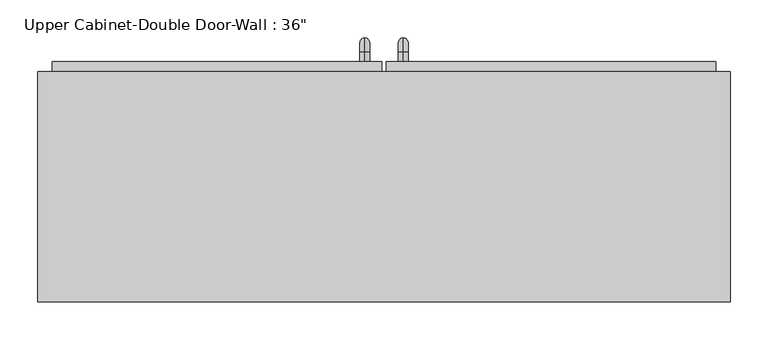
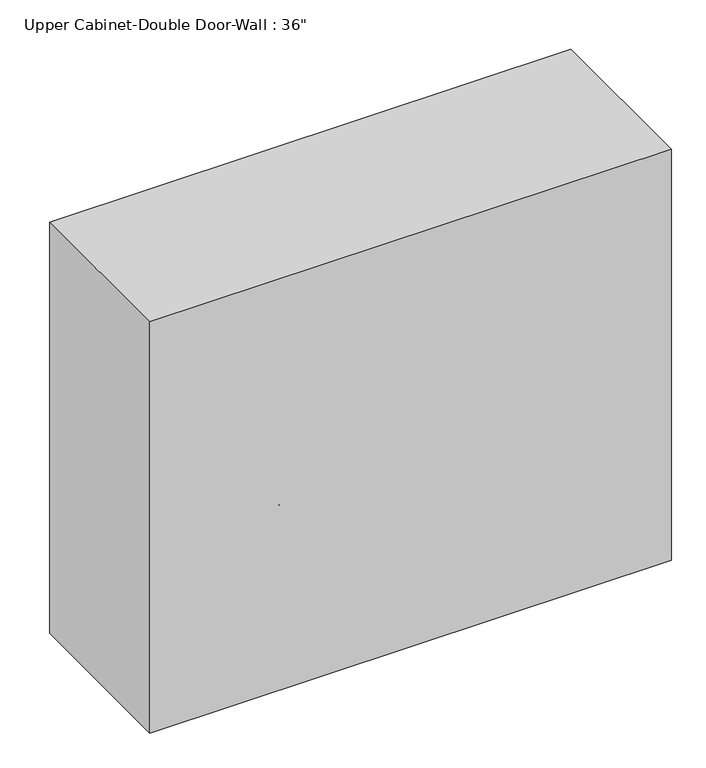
"""IFC4 building model written with IfcOpenShell, lengths in millimetres: furniture geometry."""

import ifcopenshell
import ifcopenshell.guid

model = None  # the IFC model being written
_history = None  # IfcOwnerHistory: only IFC2X3 demands one
_inside = {}  # id of a spatial element -> (the spatial element, [elements in it])
_under = {}  # id of a project, library or spatial element -> (it, [spatial elements below it])
_declared = {}  # id of a project -> (the project, [libraries it declares])
_typed = {}  # id of a type object -> (the type object, [elements of that type])
_made_of = {}  # id of a material, layer set ... -> (it, [elements and type objects made of it])


def new_model(schema):
    """Start an empty IFC model of exactly this schema.

    Asked for "IFC4X3", IfcOpenShell would pick the latest addendum, in which some entities
    have other attributes; the version numbers below select the first issue.
    IFC2X3 requires an IfcOwnerHistory on every rooted entity: one is made here for all.
    """
    global model, _history
    if schema == "IFC4X3":
        model = ifcopenshell.file(schema_version=(4, 3, 0, 0))
    else:
        model = ifcopenshell.file(schema=schema)
    _inside.clear()
    _under.clear()
    _declared.clear()
    _typed.clear()
    _made_of.clear()
    _history = None
    if model.schema == "IFC2X3":
        org = make("IfcOrganization", Name="unknown")
        user = make(
            "IfcPersonAndOrganization",
            ThePerson=make("IfcPerson", FamilyName="unknown"),
            TheOrganization=org,
        )
        app = make(
            "IfcApplication",
            ApplicationDeveloper=org,
            Version="unknown",
            ApplicationFullName="unknown",
            ApplicationIdentifier="unknown",
        )
        _history = make(
            "IfcOwnerHistory",
            OwningUser=user,
            OwningApplication=app,
            ChangeAction="ADDED",
            CreationDate=0,
        )
    return model


def make(cls, **values):
    """One entity of the class cls with the attributes given. An attribute that is None is left unset."""
    return model.create_entity(
        cls, **{name: value for name, value in values.items() if value is not None}
    )


def rooted(cls, **values):
    """An entity with a GlobalId (a new one), such as an element, a storey or a relation."""
    return make(cls, GlobalId=ifcopenshell.guid.new(), OwnerHistory=_history, **values)


def si_unit(unit_type, name, prefix=None):
    """IfcSIUnit, for example si_unit("LENGTHUNIT", "METRE", prefix="MILLI")."""
    return make("IfcSIUnit", UnitType=unit_type, Prefix=prefix, Name=name)


def assignment(units):
    """IfcUnitAssignment: the units of a project."""
    return None if units is None else make("IfcUnitAssignment", Units=units)


def point(xyz):
    """IfcCartesianPoint."""
    return None if xyz is None else make("IfcCartesianPoint", Coordinates=xyz)


def direction(xyz):
    """IfcDirection."""
    return None if xyz is None else make("IfcDirection", DirectionRatios=xyz)


def frame(location, z_axis=None, x_axis=None):
    """IfcAxis2Placement3D, a coordinate frame: its origin and axes. An axis left out is left unset."""
    return make(
        "IfcAxis2Placement3D",
        Location=point(location),
        Axis=direction(z_axis),
        RefDirection=direction(x_axis),
    )


def origin():
    """The frame at (0, 0, 0) with its axes left unset."""
    return frame((0.0, 0.0, 0.0))


def place(relative_to, where):
    """IfcLocalPlacement: puts the frame where relative to a parent placement (None: the world)."""
    return make(
        "IfcLocalPlacement", PlacementRelTo=relative_to, RelativePlacement=where
    )


def context(
    kind, dimensions, precision=None, world=None, true_north=None, identifier=None
):
    """IfcGeometricRepresentationContext, for example the 3D "Model" context."""
    return make(
        "IfcGeometricRepresentationContext",
        ContextIdentifier=identifier,
        ContextType=kind,
        CoordinateSpaceDimension=dimensions,
        Precision=precision,
        WorldCoordinateSystem=world,
        TrueNorth=true_north,
    )


def project(units=None, contexts=None):
    """IfcProject with its units and contexts."""
    return rooted(
        "IfcProject",
        Name="project",
        RepresentationContexts=contexts,
        UnitsInContext=assignment(units),
    )


def spatial(cls, under=None, at=None, **own):
    """A site, building, storey or space (cls), placed at a placement, below another one or the project."""
    s = rooted(cls, ObjectPlacement=at, **own)
    if under is not None:
        _under.setdefault(under.id(), (under, []))[1].append(s)
    return s


def polyline(points):
    """IfcPolyline through the points."""
    return make("IfcPolyline", Points=[point(p) for p in points])


def circle_curve(where, radius):
    """IfcCircle in the frame where."""
    return make("IfcCircle", Position=where, Radius=radius)


def ellipse_curve(where, semi_axis1, semi_axis2):
    """IfcEllipse in the frame where."""
    return make(
        "IfcEllipse", Position=where, SemiAxis1=semi_axis1, SemiAxis2=semi_axis2
    )


def trimmed(basis, trim1, trim2, sense, master):
    """IfcTrimmedCurve: the piece of a basis curve between two trims."""
    return make(
        "IfcTrimmedCurve",
        BasisCurve=basis,
        Trim1=trim1,
        Trim2=trim2,
        SenseAgreement=sense,
        MasterRepresentation=master,
    )


def outline(outer, holes=None, kind="AREA"):
    """IfcArbitraryClosedProfileDef: a profile drawn as a closed curve; with holes, ...WithVoids."""
    if holes is None:
        return make("IfcArbitraryClosedProfileDef", ProfileType=kind, OuterCurve=outer)
    return make(
        "IfcArbitraryProfileDefWithVoids",
        ProfileType=kind,
        OuterCurve=outer,
        InnerCurves=holes,
    )


def extrude(swept, where, along, depth):
    """IfcExtrudedAreaSolid: the profile swept, set in the frame where, extruded along a direction by depth."""
    return make(
        "IfcExtrudedAreaSolid",
        SweptArea=swept,
        Position=where,
        ExtrudedDirection=direction(along),
        Depth=depth,
    )


def faces_of(points, faces, orient=None, outer=None):
    """IfcFace entities. A face is a list of loops; a loop is a list of indices into points, from 0.

    orient and outer hold one flag for each loop. By default every Orientation is true, the
    first loop of a face is its IfcFaceOuterBound and the others are IfcFaceBound.
    """
    made = []
    for i, loops in enumerate(faces):
        bounds = []
        for j, loop in enumerate(loops):
            is_outer = j == 0 if outer is None else outer[i][j]
            bounds.append(
                make(
                    "IfcFaceOuterBound" if is_outer else "IfcFaceBound",
                    Bound=make("IfcPolyLoop", Polygon=[points[k] for k in loop]),
                    Orientation=True if orient is None else orient[i][j],
                )
            )
        made.append(make("IfcFace", Bounds=bounds))
    return made


def faceted_brep(points, faces, orient=None, outer=None, voids=None):
    """IfcFacetedBrep: a solid bounded by flat faces; with voids (closed shells), ...WithVoids."""
    shared = [point(p) for p in points]
    hull = make("IfcClosedShell", CfsFaces=faces_of(shared, faces, orient, outer))
    if voids is None:
        return make("IfcFacetedBrep", Outer=hull)
    return make(
        "IfcFacetedBrepWithVoids",
        Outer=hull,
        Voids=[
            make(cls, CfsFaces=faces_of(shared, fs, o, b)) for cls, fs, o, b in voids
        ],
    )


def shape(context_of_items, identifier, shape_type, items):
    """IfcShapeRepresentation: the items that make up one representation, for example the "Body"."""
    return make(
        "IfcShapeRepresentation",
        ContextOfItems=context_of_items,
        RepresentationIdentifier=identifier,
        RepresentationType=shape_type,
        Items=items,
    )


def source(mapping_origin, context_of_items, identifier, shape_type, items):
    """IfcRepresentationMap: a shape defined once, which mapped items show again and again."""
    return make(
        "IfcRepresentationMap",
        MappingOrigin=mapping_origin,
        MappedRepresentation=shape(context_of_items, identifier, shape_type, items),
    )


def transform(
    local_origin,
    x_axis=None,
    y_axis=None,
    z_axis=None,
    scale=None,
    scale2=None,
    scale3=None,
    uniform=True,
):
    """IfcCartesianTransformationOperator3D, or its non-uniform kind. x_axis, y_axis, z_axis: its Axis1, 2, 3."""
    if uniform:
        return make(
            "IfcCartesianTransformationOperator3D",
            Axis1=direction(x_axis),
            Axis2=direction(y_axis),
            LocalOrigin=point(local_origin),
            Scale=scale,
            Axis3=direction(z_axis),
        )
    return make(
        "IfcCartesianTransformationOperator3DnonUniform",
        Axis1=direction(x_axis),
        Axis2=direction(y_axis),
        LocalOrigin=point(local_origin),
        Scale=scale,
        Axis3=direction(z_axis),
        Scale2=scale2,
        Scale3=scale3,
    )


def mapped(mapping_source, mapping_target):
    """IfcMappedItem: shows the shape of a source again, moved by a transform."""
    return make(
        "IfcMappedItem", MappingSource=mapping_source, MappingTarget=mapping_target
    )


def made_of(thing, what):
    """Note that an element or type object is made of a material, layer set ...; save() writes the relation."""
    if what is not None:
        _made_of.setdefault(what.id(), (what, []))[1].append(thing)
    return thing


def element(
    cls,
    number,
    at=None,
    inside=None,
    cuts=None,
    type_object=None,
    material=None,
    context=None,
    identifier="Body",
    shape_type=None,
    held_by="IfcProductDefinitionShape",
    body=None,
    shapes=None,
    **own,
):
    """One element of the class cls, such as IfcWall. Its Tag is "e" and its number.

    at: its placement. inside: the storey or other place that contains it. cuts: it is an
    opening in that element (IfcRelVoidsElement). A single representation is given by context,
    identifier, shape_type and body (its items); several are given by shapes. held_by: the class
    of the entity that holds the representations. save() writes the other relations.
    """
    e = rooted(cls, Tag="e%d" % number, ObjectPlacement=at, **own)
    if body is not None:
        shapes = [shape(context, identifier, shape_type, body)]
    if shapes is not None:
        e.Representation = make(held_by, Representations=shapes)
    if inside is not None:
        _inside.setdefault(inside.id(), (inside, []))[1].append(e)
    if cuts is not None:
        rooted(
            "IfcRelVoidsElement", RelatingBuildingElement=cuts, RelatedOpeningElement=e
        )
    if type_object is not None:
        _typed.setdefault(type_object.id(), (type_object, []))[1].append(e)
    return made_of(e, material)


def aggregate(whole, parts):
    """IfcRelAggregates: a whole, such as a stair, and the parts it consists of."""
    return rooted("IfcRelAggregates", RelatingObject=whole, RelatedObjects=parts)


def save(model, path):
    """Write the relations noted so far, then the file.

    IfcRelAggregates (storeys below a building ...), IfcRelContainedInSpatialStructure (elements
    in a storey), IfcRelDefinesByType, IfcRelAssociatesMaterial and IfcRelDeclares: one each for
    every whole, place, type object, material and project.
    """
    for whole, parts in _under.values():
        aggregate(whole, parts)
    for where, things in _inside.values():
        rooted(
            "IfcRelContainedInSpatialStructure",
            RelatedElements=things,
            RelatingStructure=where,
        )
    for kind, things in _typed.values():
        rooted("IfcRelDefinesByType", RelatedObjects=things, RelatingType=kind)
    for what, things in _made_of.values():
        rooted("IfcRelAssociatesMaterial", RelatedObjects=things, RelatingMaterial=what)
    for by, libraries in _declared.values():
        rooted("IfcRelDeclares", RelatingContext=by, RelatedDefinitions=libraries)
    model.write(path)


def plane_surface(at):
    """IfcPlane: the flat surface through the origin of the frame at, square to its z axis."""
    return make("IfcPlane", Position=at)


def cylinder_surface(at, radius):
    """IfcCylindricalSurface: all points at the distance radius from the z axis of the frame at."""
    return make("IfcCylindricalSurface", Position=at, Radius=radius)


def revolved_surface(curve, axis_point, axis_direction):
    """IfcSurfaceOfRevolution: the curve turned about the line through axis_point along axis_direction."""
    return make(
        "IfcSurfaceOfRevolution",
        SweptCurve=make("IfcArbitraryOpenProfileDef", ProfileType="CURVE", Curve=curve),
        AxisPosition=make("IfcAxis1Placement", Location=point(axis_point), Axis=direction(axis_direction)),
    )


def advanced_brep(points, edges, surfaces, faces):
    """IfcAdvancedBrep: a solid bounded by faces that lie on surfaces and meet in shared edges.

    An edge is (start, end): straight between two places in points (the first is 0);
    or (start, end, curve); or (start, end, curve, False) where it runs against its curve.
    A face is (place in surfaces, loops), or (place, loops, False) where it looks against
    its surface's normal. A loop lists edges by number (the first is 1), with a minus sign
    where the edge is run from its end to its start. The first loop is the outer one.
    """
    corners = [point(p) for p in points]
    vertices = [make("IfcVertexPoint", VertexGeometry=c) for c in corners]
    made = []
    for start, end, *more in edges:
        made.append(
            make(
                "IfcEdgeCurve",
                EdgeStart=vertices[start],
                EdgeEnd=vertices[end],
                EdgeGeometry=more[0] if more else make("IfcPolyline", Points=[corners[start], corners[end]]),
                SameSense=more[1] if len(more) > 1 else True,
            )
        )
    hull = []
    for where, loops, *sense in faces:
        bounds = []
        for j, loop in enumerate(loops):
            ring = [make("IfcOrientedEdge", EdgeElement=made[abs(k) - 1], Orientation=k > 0) for k in loop]
            bounds.append(
                make(
                    "IfcFaceOuterBound" if j == 0 else "IfcFaceBound",
                    Bound=make("IfcEdgeLoop", EdgeList=ring),
                    Orientation=True,
                )
            )
        hull.append(make("IfcAdvancedFace", Bounds=bounds, FaceSurface=surfaces[where], SameSense=sense[0] if sense else True))
    return make("IfcAdvancedBrep", Outer=make("IfcClosedShell", CfsFaces=hull))


def furniture_a19cf25f(model_context):
    return source(origin(), model_context, "Body", "SolidModel", [
        faceted_brep([(-427.4288372, 76.2, 2133.6), (-427.4288372, 76.2, 1371.6), (486.9711628, 76.2, 1371.6), (486.9711628, 76.2, 2133.6), (-427.4288372, 381.0, 2133.6), (486.9711628, 381.0, 2133.6), (486.9711628, 381.0, 1371.6), (-427.4288372, 381.0, 1371.6), (-408.3788372, 381.0, 2114.55), (-408.3788372, 381.0, 1390.65), (467.9211628, 381.0, 1390.65), (467.9211628, 381.0, 2114.55), (467.9211628, 95.25, 2114.55), (-408.3788372, 95.25, 2114.55), (467.9211628, 95.25, 1390.65), (-408.3788372, 95.25, 1390.65)], [[[0, 1, 2, 3]], [[4, 5, 6, 7], [8, 9, 10, 11]], [[1, 0, 4, 7]], [[2, 1, 7, 6]], [[3, 2, 6, 5]], [[0, 3, 5, 4]], [[8, 11, 12, 13]], [[11, 10, 14, 12]], [[10, 9, 15, 14]], [[9, 8, 13, 15]], [[13, 12, 14, 15]]]),
        advanced_brep(
        [(55.1711628, 393.7, 1517.65), (55.1711628, 393.7, 1530.35), (55.1711628, 406.4, 1517.65), (55.1711628, 406.4, 1530.35), (55.1711628, 425.45, 1511.3), (55.1711628, 412.75, 1511.3), (55.1711628, 412.75, 1435.1), (55.1711628, 425.45, 1435.1), (55.1711628, 406.4, 1416.05), (55.1711628, 406.4, 1428.75), (55.1711628, 393.7, 1428.75), (55.1711628, 393.7, 1416.05)],
        [
            (0, 1, circle_curve(frame((55.1711628, 393.7, 1524.0), z_axis=(0.0, -1.0, 0.0), x_axis=(0.0, 0.0, -1.0)), 6.35)),
            (1, 0, circle_curve(frame((55.1711628, 393.7, 1524.0), z_axis=(0.0, -1.0, 0.0), x_axis=(0.0, 0.0, -1.0)), 6.35)),
            (0, 2),
            (2, 3, circle_curve(frame((55.1711628, 406.4, 1524.0), z_axis=(0.0, -1.0, 0.0), x_axis=(0.0, 0.0, -1.0)), 6.35)),
            (3, 1),
            (3, 2, circle_curve(frame((55.1711628, 406.4, 1524.0), z_axis=(0.0, -1.0, 0.0), x_axis=(0.0, 0.0, -1.0)), 6.35)),
            (4, 3, circle_curve(frame((55.1711628, 406.4, 1511.3), z_axis=(1.0, 0.0, 0.0), x_axis=(0.0, 0.0, 1.0)), 19.05)),
            (2, 5, circle_curve(frame((55.1711628, 406.4, 1511.3), z_axis=(-1.0, 0.0, 0.0), x_axis=(0.0, 0.0, 1.0)), 6.35)),
            (5, 4, circle_curve(frame((55.1711628, 419.1, 1511.3), z_axis=(0.0, 0.0, 1.0), x_axis=(0.0, -1.0, 0.0)), 6.35)),
            (4, 5, circle_curve(frame((55.1711628, 419.1, 1511.3), z_axis=(0.0, 0.0, 1.0), x_axis=(0.0, -1.0, 0.0)), 6.35)),
            (5, 6),
            (6, 7, circle_curve(frame((55.1711628, 419.1, 1435.1), z_axis=(0.0, 0.0, 1.0), x_axis=(0.0, -1.0, 0.0)), 6.35)),
            (7, 4),
            (7, 6, circle_curve(frame((55.1711628, 419.1, 1435.1), z_axis=(0.0, 0.0, 1.0), x_axis=(0.0, -1.0, 0.0)), 6.35)),
            (8, 7, circle_curve(frame((55.1711628, 406.4, 1435.1), z_axis=(1.0, 0.0, 0.0), x_axis=(0.0, 1.0, 0.0)), 19.05)),
            (6, 9, circle_curve(frame((55.1711628, 406.4, 1435.1), z_axis=(-1.0, 0.0, 0.0), x_axis=(0.0, 1.0, 0.0)), 6.35)),
            (9, 8, circle_curve(frame((55.1711628, 406.4, 1422.4), z_axis=(0.0, 1.0, 0.0), x_axis=(0.0, 0.0, 1.0)), 6.35)),
            (8, 9, circle_curve(frame((55.1711628, 406.4, 1422.4), z_axis=(0.0, 1.0, 0.0), x_axis=(0.0, 0.0, 1.0)), 6.35)),
            (10, 11, circle_curve(frame((55.1711628, 393.7, 1422.4), z_axis=(0.0, -1.0, 0.0), x_axis=(0.0, 0.0, 1.0)), 6.35)),
            (11, 10, circle_curve(frame((55.1711628, 393.7, 1422.4), z_axis=(0.0, -1.0, 0.0), x_axis=(0.0, 0.0, 1.0)), 6.35)),
            (9, 10),
            (11, 8),
        ],
        [
            plane_surface(frame((48.8211628, 393.7, 1524.0), z_axis=(0.0, -1.0, 0.0), x_axis=(0.0, 0.0, 1.0))),
            cylinder_surface(frame((55.1711628, 393.7, 1524.0), z_axis=(0.0, -1.0, 0.0), x_axis=(0.0, 0.0, -1.0)), 6.35),
            revolved_surface(trimmed(ellipse_curve(frame((55.1711628, 406.4, 1524.0), z_axis=(0.0, -1.0, 0.0), x_axis=(0.0, 0.0, -1.0)), 6.35, 6.35), [point((55.1711628, 406.4, 1517.65))], [point((55.1711628, 406.4, 1530.35))], True, "CARTESIAN"), (55.1711628, 406.4, 1511.3), (-1.0, 0.0, 0.0)),
            revolved_surface(trimmed(ellipse_curve(frame((55.1711628, 406.4, 1524.0), z_axis=(0.0, -1.0, 0.0), x_axis=(0.0, 0.0, -1.0)), 6.35, 6.35), [point((55.1711628, 406.4, 1530.35))], [point((55.1711628, 406.4, 1517.65))], True, "CARTESIAN"), (55.1711628, 406.4, 1511.3), (-1.0, 0.0, 0.0)),
            cylinder_surface(frame((55.1711628, 419.1, 1511.3), z_axis=(0.0, 0.0, 1.0), x_axis=(0.0, -1.0, 0.0)), 6.35),
            revolved_surface(trimmed(ellipse_curve(frame((55.1711628, 419.1, 1435.1), z_axis=(0.0, 0.0, 1.0), x_axis=(0.0, -1.0, 0.0)), 6.35, 6.35), [point((55.1711628, 412.75, 1435.1))], [point((55.1711628, 425.45, 1435.1))], True, "CARTESIAN"), (55.1711628, 406.4, 1435.1), (-1.0, 0.0, 0.0)),
            revolved_surface(trimmed(ellipse_curve(frame((55.1711628, 419.1, 1435.1), z_axis=(0.0, 0.0, 1.0), x_axis=(0.0, -1.0, 0.0)), 6.35, 6.35), [point((55.1711628, 425.45, 1435.1))], [point((55.1711628, 412.75, 1435.1))], True, "CARTESIAN"), (55.1711628, 406.4, 1435.1), (-1.0, 0.0, 0.0)),
            plane_surface(frame((48.8211628, 393.7, 1422.4), z_axis=(0.0, -1.0, 0.0), x_axis=(0.0, 0.0, -1.0))),
            cylinder_surface(frame((55.1711628, 406.4, 1422.4), z_axis=(0.0, 1.0, 0.0), x_axis=(0.0, 0.0, 1.0)), 6.35),
        ],
        [
            (0, [[1, 2]]),
            (1, [[-1, 3, 4, 5]]),
            (1, [[-2, -5, 6, -3]]),
            (2, [[7, -4, 8, 9]]),
            (3, [[-8, -6, -7, 10]]),
            (4, [[-9, 11, 12, 13]]),
            (4, [[-10, -13, 14, -11]]),
            (5, [[15, -12, 16, 17]]),
            (6, [[-16, -14, -15, 18]]),
            (7, [[19, 20]]),
            (8, [[-17, 21, -20, 22]]),
            (8, [[-18, -22, -19, -21]]),
        ],
    ),
        advanced_brep(
        [(4.3711628, 393.7, 1517.65), (4.3711628, 393.7, 1530.35), (4.3711628, 406.4, 1517.65), (4.3711628, 406.4, 1530.35), (4.3711628, 425.45, 1511.3), (4.3711628, 412.75, 1511.3), (4.3711628, 412.75, 1435.1), (4.3711628, 425.45, 1435.1), (4.3711628, 406.4, 1416.05), (4.3711628, 406.4, 1428.75), (4.3711628, 393.7, 1428.75), (4.3711628, 393.7, 1416.05)],
        [
            (0, 1, circle_curve(frame((4.3711628, 393.7, 1524.0), z_axis=(0.0, -1.0, 0.0), x_axis=(0.0, 0.0, 1.0)), 6.35)),
            (1, 0, circle_curve(frame((4.3711628, 393.7, 1524.0), z_axis=(0.0, -1.0, 0.0), x_axis=(0.0, 0.0, 1.0)), 6.35)),
            (0, 2),
            (2, 3, circle_curve(frame((4.3711628, 406.4, 1524.0), z_axis=(0.0, -1.0, 0.0), x_axis=(0.0, 0.0, 1.0)), 6.35)),
            (3, 1),
            (3, 2, circle_curve(frame((4.3711628, 406.4, 1524.0), z_axis=(0.0, -1.0, 0.0), x_axis=(0.0, 0.0, 1.0)), 6.35)),
            (4, 3, circle_curve(frame((4.3711628, 406.4, 1511.3), z_axis=(1.0, 0.0, 0.0), x_axis=(0.0, 0.0, 1.0)), 19.05)),
            (2, 5, circle_curve(frame((4.3711628, 406.4, 1511.3), z_axis=(-1.0, 0.0, 0.0), x_axis=(0.0, 0.0, 1.0)), 6.35)),
            (5, 4, circle_curve(frame((4.3711628, 419.1, 1511.3), z_axis=(0.0, 0.0, 1.0), x_axis=(0.0, 1.0, 0.0)), 6.35)),
            (4, 5, circle_curve(frame((4.3711628, 419.1, 1511.3), z_axis=(0.0, 0.0, 1.0), x_axis=(0.0, 1.0, 0.0)), 6.35)),
            (5, 6),
            (6, 7, circle_curve(frame((4.3711628, 419.1, 1435.1), z_axis=(0.0, 0.0, 1.0), x_axis=(0.0, 1.0, 0.0)), 6.35)),
            (7, 4),
            (7, 6, circle_curve(frame((4.3711628, 419.1, 1435.1), z_axis=(0.0, 0.0, 1.0), x_axis=(0.0, 1.0, 0.0)), 6.35)),
            (8, 7, circle_curve(frame((4.3711628, 406.4, 1435.1), z_axis=(1.0, 0.0, 0.0), x_axis=(0.0, 1.0, 0.0)), 19.05)),
            (6, 9, circle_curve(frame((4.3711628, 406.4, 1435.1), z_axis=(-1.0, 0.0, 0.0), x_axis=(0.0, 1.0, 0.0)), 6.35)),
            (9, 8, circle_curve(frame((4.3711628, 406.4, 1422.4), z_axis=(0.0, 1.0, 0.0), x_axis=(0.0, 0.0, -1.0)), 6.35)),
            (8, 9, circle_curve(frame((4.3711628, 406.4, 1422.4), z_axis=(0.0, 1.0, 0.0), x_axis=(0.0, 0.0, -1.0)), 6.35)),
            (10, 11, circle_curve(frame((4.3711628, 393.7, 1422.4), z_axis=(0.0, -1.0, 0.0), x_axis=(0.0, 0.0, -1.0)), 6.35)),
            (11, 10, circle_curve(frame((4.3711628, 393.7, 1422.4), z_axis=(0.0, -1.0, 0.0), x_axis=(0.0, 0.0, -1.0)), 6.35)),
            (9, 10),
            (11, 8),
        ],
        [
            plane_surface(frame((-1.9788372, 393.7, 1524.0), z_axis=(0.0, -1.0, 0.0), x_axis=(0.0, 0.0, 1.0))),
            cylinder_surface(frame((4.3711628, 393.7, 1524.0), z_axis=(0.0, -1.0, 0.0), x_axis=(0.0, 0.0, 1.0)), 6.35),
            revolved_surface(trimmed(ellipse_curve(frame((4.3711628, 406.4, 1524.0), z_axis=(0.0, -1.0, 0.0), x_axis=(0.0, 0.0, 1.0)), 6.35, 6.35), [point((4.3711628, 406.4, 1517.65))], [point((4.3711628, 406.4, 1530.35))], True, "CARTESIAN"), (4.3711628, 406.4, 1511.3), (-1.0, 0.0, 0.0)),
            revolved_surface(trimmed(ellipse_curve(frame((4.3711628, 406.4, 1524.0), z_axis=(0.0, -1.0, 0.0), x_axis=(0.0, 0.0, 1.0)), 6.35, 6.35), [point((4.3711628, 406.4, 1530.35))], [point((4.3711628, 406.4, 1517.65))], True, "CARTESIAN"), (4.3711628, 406.4, 1511.3), (-1.0, 0.0, 0.0)),
            cylinder_surface(frame((4.3711628, 419.1, 1511.3), z_axis=(0.0, 0.0, 1.0), x_axis=(0.0, 1.0, 0.0)), 6.35),
            revolved_surface(trimmed(ellipse_curve(frame((4.3711628, 419.1, 1435.1), z_axis=(0.0, 0.0, 1.0), x_axis=(0.0, 1.0, 0.0)), 6.35, 6.35), [point((4.3711628, 412.75, 1435.1))], [point((4.3711628, 425.45, 1435.1))], True, "CARTESIAN"), (4.3711628, 406.4, 1435.1), (-1.0, 0.0, 0.0)),
            revolved_surface(trimmed(ellipse_curve(frame((4.3711628, 419.1, 1435.1), z_axis=(0.0, 0.0, 1.0), x_axis=(0.0, 1.0, 0.0)), 6.35, 6.35), [point((4.3711628, 425.45, 1435.1))], [point((4.3711628, 412.75, 1435.1))], True, "CARTESIAN"), (4.3711628, 406.4, 1435.1), (-1.0, 0.0, 0.0)),
            plane_surface(frame((-1.9788372, 393.7, 1422.4), z_axis=(0.0, -1.0, 0.0), x_axis=(0.0, 0.0, -1.0))),
            cylinder_surface(frame((4.3711628, 406.4, 1422.4), z_axis=(0.0, 1.0, 0.0), x_axis=(0.0, 0.0, -1.0)), 6.35),
        ],
        [
            (0, [[1, 2]]),
            (1, [[-1, 3, 4, 5]]),
            (1, [[-2, -5, 6, -3]]),
            (2, [[7, -4, 8, 9]]),
            (3, [[-8, -6, -7, 10]]),
            (4, [[-9, 11, 12, 13]]),
            (4, [[-10, -13, 14, -11]]),
            (5, [[15, -12, 16, 17]]),
            (6, [[-16, -14, -15, 18]]),
            (7, [[19, 20]]),
            (8, [[-17, 21, -20, 22]]),
            (8, [[-18, -22, -19, -21]]),
        ],
    ),
        extrude(outline(polyline([(32.9461628, 393.7), (467.9211628, 393.7), (467.9211628, 361.95), (32.9461628, 361.95), (32.9461628, 393.7)])), frame((0.0, 0.0, 1390.65), z_axis=(0.0, 0.0, 1.0), x_axis=(1.0, 0.0, 0.0)), (0.0, 0.0, 1.0), 723.9),
        extrude(outline(polyline([(-408.3788372, 393.7), (26.5961628, 393.7), (26.5961628, 361.95), (-408.3788372, 361.95), (-408.3788372, 393.7)])), frame((0.0, 0.0, 1390.65), z_axis=(0.0, 0.0, 1.0), x_axis=(1.0, 0.0, 0.0)), (0.0, 0.0, 1.0), 723.9),
    ])


if __name__ == "__main__":
    model = new_model("IFC4")
    model_context = context("Model", 3, world=origin())
    ifc_project = project(units=[si_unit("LENGTHUNIT", "METRE", prefix="MILLI")], contexts=[model_context])
    site = spatial("IfcSite", under=ifc_project)
    building = spatial("IfcBuilding", under=site)
    placement = place(None, origin())
    furniture_shape = furniture_a19cf25f(model_context)
    element("IfcFurniture", 1, ObjectType="Upper Cabinet-Double Door-Wall : 36\"", at=placement, inside=building, context=model_context, shape_type="MappedRepresentation", body=[
        mapped(furniture_shape, transform((0.0, 0.0, 0.0), x_axis=(1.0, 0.0, 0.0), y_axis=(0.0, 1.0, 0.0), z_axis=(0.0, 0.0, 1.0))),
    ])
    save(model, "model.ifc")
